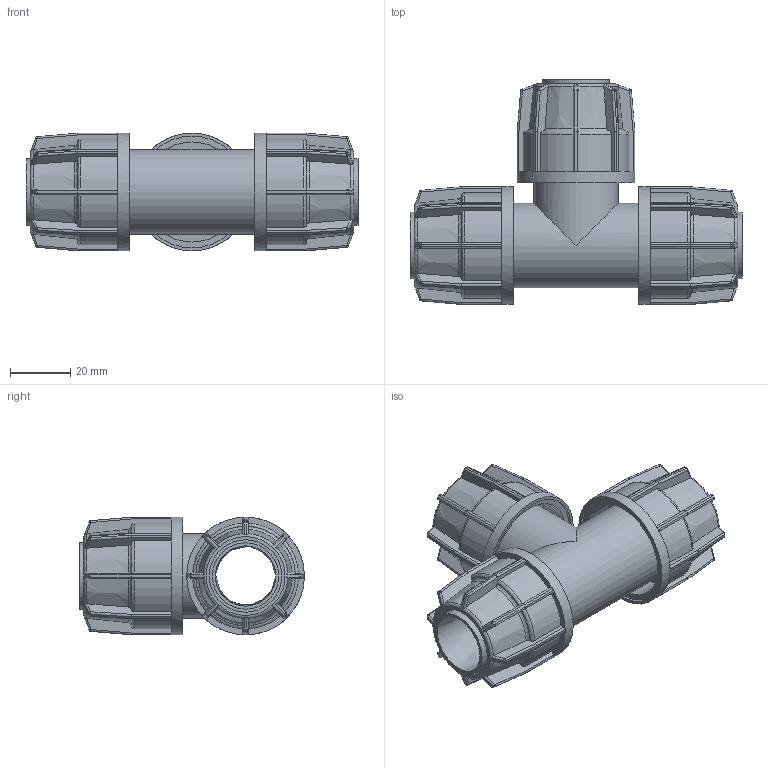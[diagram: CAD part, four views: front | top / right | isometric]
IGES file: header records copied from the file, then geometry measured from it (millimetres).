
Global section: file name: 040407020.ipt; native system: Autodesk Inventor 2015; preprocessor: unknown; author: KIM; date: 20180409.130633; units: millimetre
Bounding box: 110 x 74.5 x 39 mm (x, y, z)
Volume: 63192.6 mm3; surface area: 37941.5 mm2
Topology: 1 solids, 1 shells, 784 faces, 1882 edges, 1086 vertices
Faces by surface type: plane 378, cylinder 224, sphere 96, revolution 62, cone 24
Full cylindrical faces by diameter (mm): 22 x3, 28 x2, 39 x3
